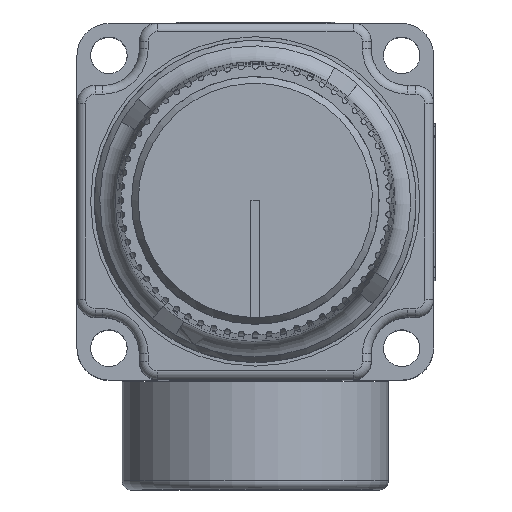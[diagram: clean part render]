
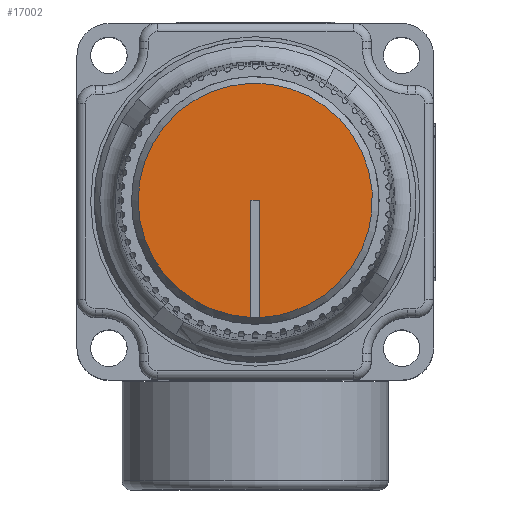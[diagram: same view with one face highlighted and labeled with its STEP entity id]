
A CAD part, top view. The second image highlights one B-rep face of the part: STEP entity #17002.
In plain terms, the highlighted planar face has unit normal (0, 0, 1).
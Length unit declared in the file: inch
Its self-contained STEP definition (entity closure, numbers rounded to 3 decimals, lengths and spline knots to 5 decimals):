
#565=PLANE('',#18586);
#1554=FACE_OUTER_BOUND('',#2543,.T.);
#2543=EDGE_LOOP('',(#13205,#13206,#13207,#13208,#13209));
#3396=CIRCLE('',#18587,0.4);
#3397=CIRCLE('',#18588,0.4);
#4671=LINE('',#30605,#5883);
#4672=LINE('',#30611,#5884);
#4673=LINE('',#30612,#5885);
#5883=VECTOR('',#22518,0.3937);
#5884=VECTOR('',#22523,0.3937);
#5885=VECTOR('',#22524,0.3937);
#7270=VERTEX_POINT('',#30603);
#7271=VERTEX_POINT('',#30604);
#7272=VERTEX_POINT('',#30606);
#7273=VERTEX_POINT('',#30608);
#7274=VERTEX_POINT('',#30610);
#9355=EDGE_CURVE('',#7270,#7271,#4671,.T.);
#9356=EDGE_CURVE('',#7271,#7272,#3396,.T.);
#9357=EDGE_CURVE('',#7272,#7273,#3397,.T.);
#9358=EDGE_CURVE('',#7273,#7274,#4672,.T.);
#9359=EDGE_CURVE('',#7274,#7270,#4673,.T.);
#13205=ORIENTED_EDGE('',*,*,#9355,.T.);
#13206=ORIENTED_EDGE('',*,*,#9356,.T.);
#13207=ORIENTED_EDGE('',*,*,#9357,.T.);
#13208=ORIENTED_EDGE('',*,*,#9358,.T.);
#13209=ORIENTED_EDGE('',*,*,#9359,.T.);
#17002=ADVANCED_FACE('',(#1554),#565,.T.);
#18586=AXIS2_PLACEMENT_3D('',#30602,#22516,#22517);
#18587=AXIS2_PLACEMENT_3D('',#30607,#22519,#22520);
#18588=AXIS2_PLACEMENT_3D('',#30609,#22521,#22522);
#22516=DIRECTION('center_axis',(0.,0.,1.));
#22517=DIRECTION('ref_axis',(1.,0.,0.));
#22518=DIRECTION('',(0.,-1.,0.));
#22519=DIRECTION('center_axis',(0.,0.,
1.));
#22520=DIRECTION('ref_axis',(0.325,0.946,0.));
#22521=DIRECTION('center_axis',(0.,0.,
1.));
#22522=DIRECTION('ref_axis',(0.325,0.946,0.));
#22523=DIRECTION('',(0.,1.,0.));
#22524=DIRECTION('',(1.,0.,0.));
#30602=CARTESIAN_POINT('Origin',(-0.91262,-0.34454,
1.82375));
#30603=CARTESIAN_POINT('',(-0.89762,0.05557,1.82375));
#30604=CARTESIAN_POINT('',(-0.89762,-0.34414,1.82375));
#30605=CARTESIAN_POINT('',(-0.89762,0.05557,1.82375));
#30606=CARTESIAN_POINT('',(-0.79844,-0.32778,1.82375));
#30607=CARTESIAN_POINT('Origin',(-0.91262,0.05557,
1.82375));
#30608=CARTESIAN_POINT('',(-0.92762,-0.34414,1.82375));
#30609=CARTESIAN_POINT('Origin',(-0.91262,0.05557,
1.82375));
#30610=CARTESIAN_POINT('',(-0.92762,0.05557,1.82375));
#30611=CARTESIAN_POINT('',(-0.92762,-0.34414,1.82375));
#30612=CARTESIAN_POINT('',(-0.92762,0.05557,1.82375));
